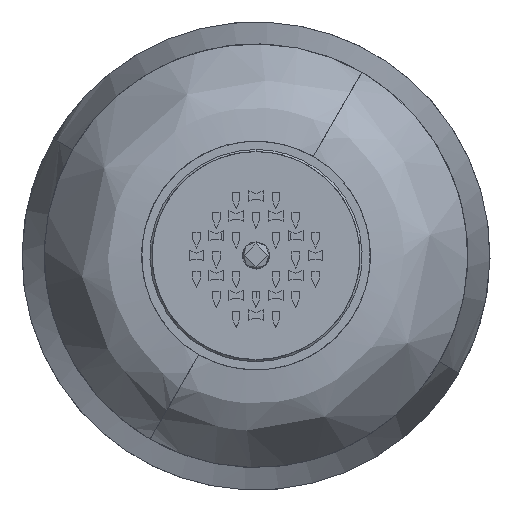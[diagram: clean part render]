
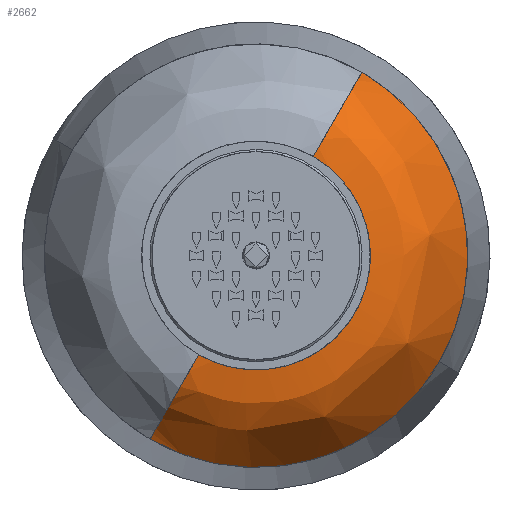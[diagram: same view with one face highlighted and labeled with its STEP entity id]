
A CAD part, top view. The second image highlights one B-rep face of the part: STEP entity #2662.
In plain terms, the highlighted free-form (B-spline) face has degree [2, 3] with [3, 4] control points.
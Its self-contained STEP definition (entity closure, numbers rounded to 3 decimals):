
#2662=ADVANCED_FACE('',(#3437),#21068,.T.);
#3437=FACE_OUTER_BOUND('',#4212,.T.);
#4212=EDGE_LOOP('',(#5124,#5125,#5126,#5127,#5128));
#5124=ORIENTED_EDGE('',*,*,#9120,.T.);
#5125=ORIENTED_EDGE('',*,*,#9121,.T.);
#5126=ORIENTED_EDGE('',*,*,#9124,.T.);
#5127=ORIENTED_EDGE('',*,*,#9122,.T.);
#5128=ORIENTED_EDGE('',*,*,#9123,.T.);
#9120=EDGE_CURVE('',#17096,#17097,#13099,.T.);
#9121=EDGE_CURVE('',#17097,#17100,#14790,.T.);
#9122=EDGE_CURVE('',#17098,#17099,#13100,.T.);
#9123=EDGE_CURVE('',#17099,#17096,#14791,.T.);
#9124=EDGE_CURVE('',#17100,#17098,#14792,.T.);
#13099=B_SPLINE_CURVE_WITH_KNOTS('',2,(#23191,#23192,#23193),
 .UNSPECIFIED.,.F.,.F.,(3,3),(0.,1.),.UNSPECIFIED.);
#13100=B_SPLINE_CURVE_WITH_KNOTS('',2,(#23197,#23198,#23199),
 .UNSPECIFIED.,.F.,.F.,(3,3),(-1.,0.),.UNSPECIFIED.);
#14790=(
BOUNDED_CURVE()
B_SPLINE_CURVE(2,(#23194,#23195,#23196),.UNSPECIFIED.,.F.,.F.)
B_SPLINE_CURVE_WITH_KNOTS((3,3),(0.,0.5),.UNSPECIFIED.)
CURVE()
GEOMETRIC_REPRESENTATION_ITEM()
RATIONAL_B_SPLINE_CURVE((1.,0.707,1.))
REPRESENTATION_ITEM('')
);
#14791=(
BOUNDED_CURVE()
B_SPLINE_CURVE(2,(#23200,#23201,#23202,#23203,#23204),.UNSPECIFIED.,.F.,
 .F.)
B_SPLINE_CURVE_WITH_KNOTS((3,2,3),(-1.,-0.5,0.),.UNSPECIFIED.)
CURVE()
GEOMETRIC_REPRESENTATION_ITEM()
RATIONAL_B_SPLINE_CURVE((1.,0.707,1.,0.707,1.))
REPRESENTATION_ITEM('')
);
#14792=(
BOUNDED_CURVE()
B_SPLINE_CURVE(2,(#23205,#23206,#23207),.UNSPECIFIED.,.F.,.F.)
B_SPLINE_CURVE_WITH_KNOTS((3,3),(0.5,1.),.UNSPECIFIED.)
CURVE()
GEOMETRIC_REPRESENTATION_ITEM()
RATIONAL_B_SPLINE_CURVE((1.,0.707,1.))
REPRESENTATION_ITEM('')
);
#17096=VERTEX_POINT('',#23186);
#17097=VERTEX_POINT('',#23187);
#17098=VERTEX_POINT('',#23188);
#17099=VERTEX_POINT('',#23189);
#17100=VERTEX_POINT('',#23190);
#21068=(
BOUNDED_SURFACE()
B_SPLINE_SURFACE(2,3,((#23174,#23175,#23176,#23177),(#23178,#23179,#23180,
#23181),(#23182,#23183,#23184,#23185)),.UNSPECIFIED.,.F.,.F.,.F.)
B_SPLINE_SURFACE_WITH_KNOTS((3,3),(4,4),(0.,1.),(0.,1.),.UNSPECIFIED.)
GEOMETRIC_REPRESENTATION_ITEM()
RATIONAL_B_SPLINE_SURFACE(((1.,0.333,0.333,1.),
(1.,0.333,0.333,1.),(1.,0.333,0.333,
1.)))
REPRESENTATION_ITEM('')
SURFACE()
);
#23174=CARTESIAN_POINT('',(55.,115.,0.));
#23175=CARTESIAN_POINT('',(55.,115.,-110.));
#23176=CARTESIAN_POINT('',(-55.,115.,-110.));
#23177=CARTESIAN_POINT('',(-55.,115.,0.));
#23178=CARTESIAN_POINT('',(90.,115.,0.));
#23179=CARTESIAN_POINT('',(90.,115.,-180.));
#23180=CARTESIAN_POINT('',(-90.,115.,-180.));
#23181=CARTESIAN_POINT('',(-90.,115.,0.));
#23182=CARTESIAN_POINT('',(101.836,74.5,0.));
#23183=CARTESIAN_POINT('',(101.836,74.5,-203.673));
#23184=CARTESIAN_POINT('',(-101.836,74.5,-203.673));
#23185=CARTESIAN_POINT('',(-101.836,74.5,0.));
#23186=CARTESIAN_POINT('',(55.,115.,0.));
#23187=CARTESIAN_POINT('',(101.836,74.5,0.));
#23188=CARTESIAN_POINT('',(-101.836,74.5,0.));
#23189=CARTESIAN_POINT('',(-55.,115.,0.));
#23190=CARTESIAN_POINT('',(0.,74.5,-101.836));
#23191=CARTESIAN_POINT('',(55.,115.,0.));
#23192=CARTESIAN_POINT('',(90.,115.,0.));
#23193=CARTESIAN_POINT('',(101.836,74.5,0.));
#23194=CARTESIAN_POINT('',(101.836,74.5,0.));
#23195=CARTESIAN_POINT('',(101.836,74.5,-101.836));
#23196=CARTESIAN_POINT('',(0.,74.5,-101.836));
#23197=CARTESIAN_POINT('',(-101.836,74.5,0.));
#23198=CARTESIAN_POINT('',(-90.,115.,0.));
#23199=CARTESIAN_POINT('',(-55.,115.,0.));
#23200=CARTESIAN_POINT('',(-55.,115.,0.));
#23201=CARTESIAN_POINT('',(-55.,115.,-55.));
#23202=CARTESIAN_POINT('',(0.,115.,-55.));
#23203=CARTESIAN_POINT('',(55.,115.,-55.));
#23204=CARTESIAN_POINT('',(55.,115.,0.));
#23205=CARTESIAN_POINT('',(0.,74.5,-101.836));
#23206=CARTESIAN_POINT('',(-101.836,74.5,-101.836));
#23207=CARTESIAN_POINT('',(-101.836,74.5,0.));
